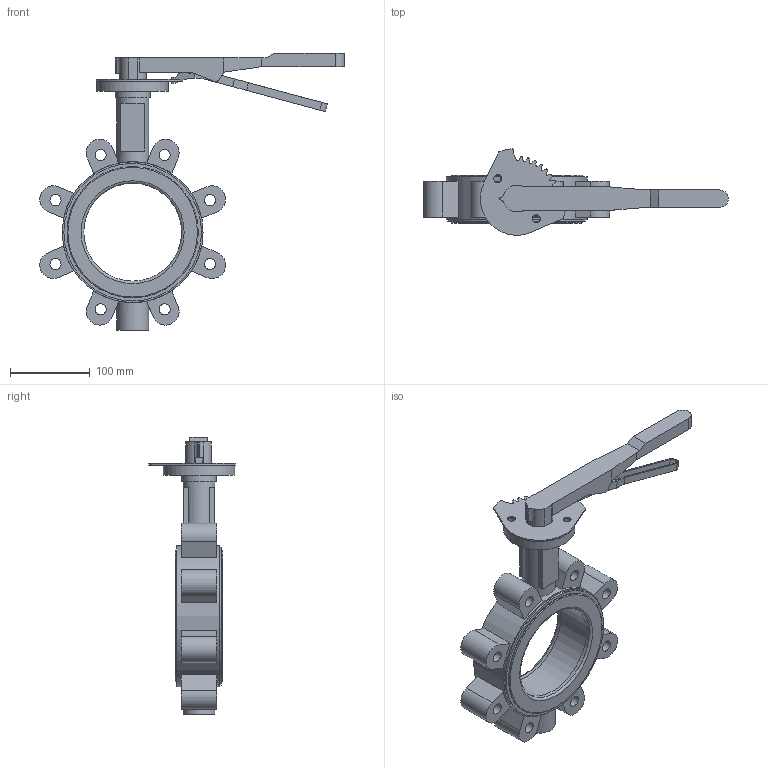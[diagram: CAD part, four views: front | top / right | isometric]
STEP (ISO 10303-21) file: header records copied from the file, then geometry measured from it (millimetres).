
FILE_DESCRIPTION (( 'STEP AP203' ), '1' );
FILE_NAME ('2502 LT型中线衬胶带销 手柄蝶阀 DN125 PN16 CD0309140.STEP', '2026-04-22T01:43:18', ( '' ), ( '' ), 'SwSTEP 2.0', 'SolidWorks 2018', '' );
FILE_SCHEMA (( 'CONFIG_CONTROL_DESIGN' ));
Length unit declared in the file: millimetre
Products named in the file (8): 新型玛钢手柄主手柄-DN100-DN125-立方孔11-9004; GALA-D125-04AZC-00; 新型玛钢手柄装配体(带盖)-DN100-DN125-立方孔14-9004; 新型玛钢手柄齿盘(不锈钢)-DN100-DN150; GALA-D125-01LC-00; 新型玛钢手柄副手柄-DN100-DN125-9004; 六角螺塞 M24X1.5; 2502 LT型中线衬胶带销 手柄蝶阀 DN125 PN16 CD0309140
Assembly tree (7 placements, depth 3):
  2502 LT型中线衬胶带销 手柄蝶阀 DN125 PN16 CD0309140
    GALA-D125-04AZC-00
    六角螺塞 M24X1.5
    GALA-D125-01LC-00
    新型玛钢手柄装配体(带盖)-DN100-DN125-立方孔14-9004
      新型玛钢手柄主手柄-DN100-DN125-立方孔11-9004
      新型玛钢手柄齿盘(不锈钢)-DN100-DN150
      新型玛钢手柄副手柄-DN100-DN125-9004
Bounding box: 382.66 x 108.6 x 349 mm (x, y, z)
Volume: 1433491.7 mm3; surface area: 307627.8 mm2
Topology: 6 solids, 6 shells, 277 faces, 733 edges, 481 vertices
Faces by surface type: plane 152, cylinder 109, cone 8, torus 8
Full cylindrical faces by diameter (mm): 10 x6, 14 x8, 22 x1, 27 x1, 29 x1, 30 x1, 31 x1, 40 x2, 44 x1, 90 x1, 123.001 x1, 131 x2, 165 x4, 173 x1, 177 x1
Entity records: 9308 total; most frequent: CARTESIAN_POINT 1653, DIRECTION 1463, ORIENTED_EDGE 1338, EDGE_CURVE 669, AXIS2_PLACEMENT_3D 532, VERTEX_POINT 466, VECTOR 399, LINE 399
